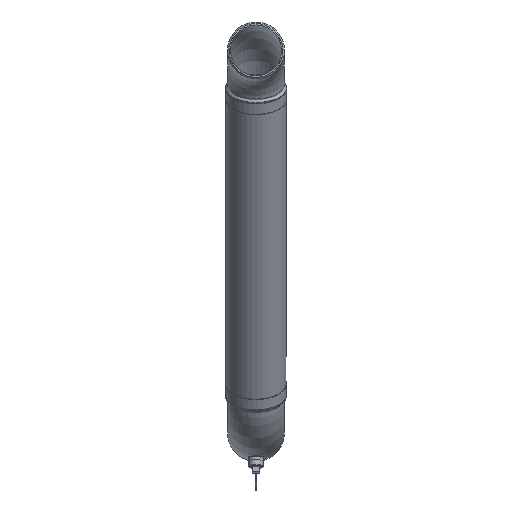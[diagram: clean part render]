
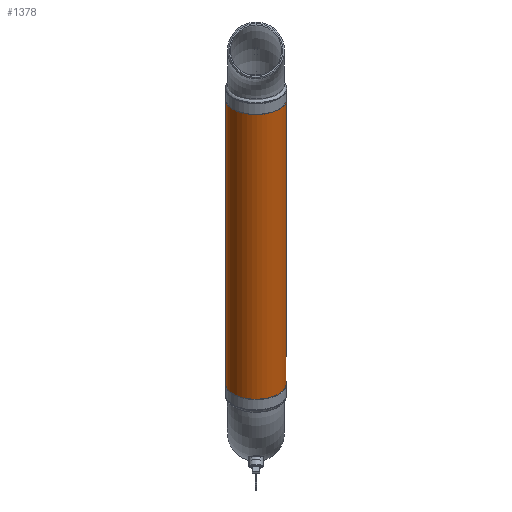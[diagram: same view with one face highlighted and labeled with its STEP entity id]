
A CAD part, front view. The second image highlights one B-rep face of the part: STEP entity #1378.
In plain terms, the highlighted cylindrical face has radius 60.35 mm (diameter 120.701 mm), a full revolution.
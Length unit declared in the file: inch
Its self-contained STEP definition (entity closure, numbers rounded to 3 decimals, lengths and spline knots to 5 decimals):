
#73=CYLINDRICAL_SURFACE('',#1573,2.376);
#284=FACE_BOUND('',#551,.T.);
#381=FACE_OUTER_BOUND('',#550,.T.);
#550=EDGE_LOOP('',(#1167));
#551=EDGE_LOOP('',(#1168));
#637=CIRCLE('',#1574,2.376);
#638=CIRCLE('',#1575,2.376);
#760=VERTEX_POINT('',#2440);
#761=VERTEX_POINT('',#2442);
#897=EDGE_CURVE('',#760,#760,#637,.T.);
#898=EDGE_CURVE('',#761,#761,#638,.T.);
#1167=ORIENTED_EDGE('',*,*,#897,.T.);
#1168=ORIENTED_EDGE('',*,*,#898,.F.);
#1378=ADVANCED_FACE('',(#381,#284),#73,.T.);
#1573=AXIS2_PLACEMENT_3D('',#2439,#1974,#1975);
#1574=AXIS2_PLACEMENT_3D('',#2441,#1976,#1977);
#1575=AXIS2_PLACEMENT_3D('',#2443,#1978,#1979);
#1974=DIRECTION('center_axis',(0.,-0.5,0.866));
#1975=DIRECTION('ref_axis',(0.472,0.763,0.441));
#1976=DIRECTION('center_axis',(0.,0.5,-0.866));
#1977=DIRECTION('ref_axis',(0.472,0.763,0.441));
#1978=DIRECTION('center_axis',(0.,0.5,-0.866));
#1979=DIRECTION('ref_axis',(0.472,0.763,0.441));
#2439=CARTESIAN_POINT('Origin',(-0.00611,-5.19615,
-27.25));
#2440=CARTESIAN_POINT('',(-1.12225,-21.00996,-4.04821));
#2441=CARTESIAN_POINT('Origin',(0.,-19.19615,
-3.00129));
#2442=CARTESIAN_POINT('',(-1.12836,-7.00996,-28.29692));
#2443=CARTESIAN_POINT('Origin',(-0.00611,-5.19615,
-27.25));
